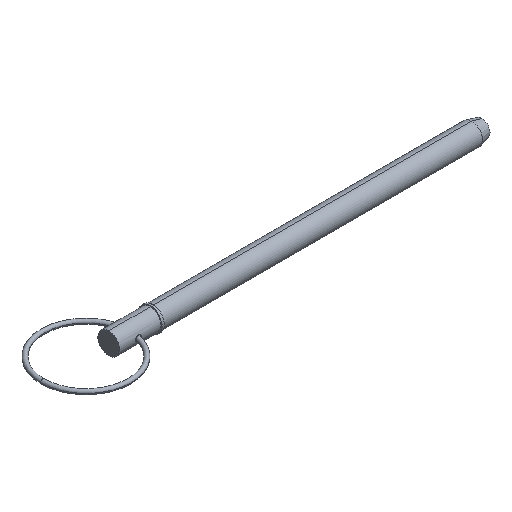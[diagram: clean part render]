
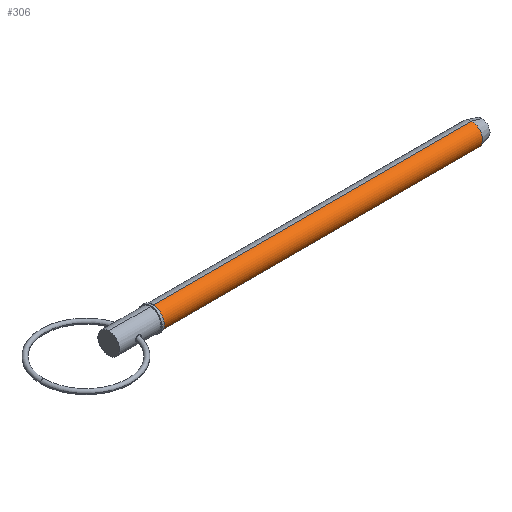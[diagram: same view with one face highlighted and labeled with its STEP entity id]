
A CAD part, isometric view. The second image highlights one B-rep face of the part: STEP entity #306.
In plain terms, the highlighted cylindrical face has radius 6.35 mm (diameter 12.7 mm), a partial arc.
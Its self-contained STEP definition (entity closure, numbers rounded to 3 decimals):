
#8 = CARTESIAN_POINT ( 'NONE',  ( 25.7, 0., 0. ) ) ;
#10 = ORIENTED_EDGE ( 'NONE', *, *, #519, .F. ) ;
#22 = VERTEX_POINT ( 'NONE', #870 ) ;
#33 = LINE ( 'NONE', #692, #138 ) ;
#75 = FACE_OUTER_BOUND ( 'NONE', #634, .T. ) ;
#94 = ORIENTED_EDGE ( 'NONE', *, *, #689, .T. ) ;
#104 = CARTESIAN_POINT ( 'NONE',  ( 0., 0., -6.35 ) ) ;
#138 = VECTOR ( 'NONE', #933, 1000. ) ;
#153 = CYLINDRICAL_SURFACE ( 'NONE', #218, 6.35 ) ;
#218 = AXIS2_PLACEMENT_3D ( 'NONE', #807, #409, #984 ) ;
#306 = ADVANCED_FACE ( 'NONE', ( #75 ), #153, .T. ) ;
#344 = VERTEX_POINT ( 'NONE', #655 ) ;
#350 = LINE ( 'NONE', #104, #678 ) ;
#375 = CARTESIAN_POINT ( 'NONE',  ( 213.455, 0., -6.35 ) ) ;
#409 = DIRECTION ( 'NONE',  ( 1., 0., 0. ) ) ;
#441 = DIRECTION ( 'NONE',  ( 1., 0., 0. ) ) ;
#477 = DIRECTION ( 'NONE',  ( 1., 0., 0. ) ) ;
#517 = VERTEX_POINT ( 'NONE', #375 ) ;
#519 = EDGE_CURVE ( 'NONE', #784, #517, #759, .T. ) ;
#567 = DIRECTION ( 'NONE',  ( 0., 0., -1. ) ) ;
#615 = DIRECTION ( 'NONE',  ( 0., 0., -1. ) ) ;
#619 = CIRCLE ( 'NONE', #839, 6.35 ) ;
#634 = EDGE_LOOP ( 'NONE', ( #837, #94, #829, #10 ) ) ;
#655 = CARTESIAN_POINT ( 'NONE',  ( 25.7, 0., 6.35 ) ) ;
#678 = VECTOR ( 'NONE', #441, 1000. ) ;
#689 = EDGE_CURVE ( 'NONE', #344, #22, #619, .T. ) ;
#692 = CARTESIAN_POINT ( 'NONE',  ( 0., 0., 6.35 ) ) ;
#759 = CIRCLE ( 'NONE', #890, 6.35 ) ;
#784 = VERTEX_POINT ( 'NONE', #813 ) ;
#807 = CARTESIAN_POINT ( 'NONE',  ( 0., 0., 0. ) ) ;
#813 = CARTESIAN_POINT ( 'NONE',  ( 213.455, 0., 6.35 ) ) ;
#829 = ORIENTED_EDGE ( 'NONE', *, *, #867, .T. ) ;
#834 = EDGE_CURVE ( 'NONE', #344, #784, #33, .T. ) ;
#837 = ORIENTED_EDGE ( 'NONE', *, *, #834, .F. ) ;
#839 = AXIS2_PLACEMENT_3D ( 'NONE', #8, #477, #567 ) ;
#867 = EDGE_CURVE ( 'NONE', #22, #517, #350, .T. ) ;
#870 = CARTESIAN_POINT ( 'NONE',  ( 25.7, 0., -6.35 ) ) ;
#890 = AXIS2_PLACEMENT_3D ( 'NONE', #1011, #936, #615 ) ;
#933 = DIRECTION ( 'NONE',  ( 1., 0., 0. ) ) ;
#936 = DIRECTION ( 'NONE',  ( 1., 0., 0. ) ) ;
#984 = DIRECTION ( 'NONE',  ( 0., 0., -1. ) ) ;
#1011 = CARTESIAN_POINT ( 'NONE',  ( 213.455, 0., 0. ) ) ;
